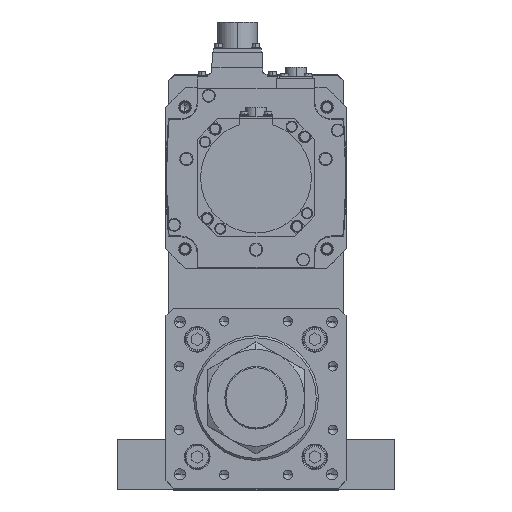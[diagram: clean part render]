
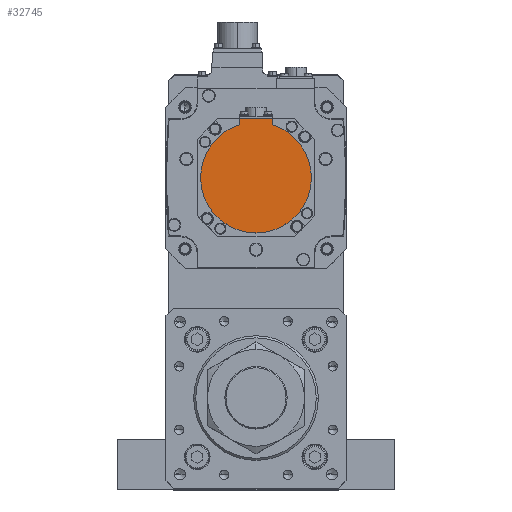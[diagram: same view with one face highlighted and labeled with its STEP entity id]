
A CAD part, top view. The second image highlights one B-rep face of the part: STEP entity #32745.
In plain terms, the highlighted planar face has unit normal (0, 0, 1) as drawn and (0, 0, -1) by its records, which use the part's own axes.
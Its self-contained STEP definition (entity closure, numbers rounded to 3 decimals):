
#138 = CARTESIAN_POINT ( 'NONE',  ( 12., -1.25, -181. ) ) ;
#199 = AXIS2_PLACEMENT_3D ( 'NONE', #30966, #3967, #27939 ) ;
#349 = CARTESIAN_POINT ( 'NONE',  ( -40., 0., -181. ) ) ;
#1576 = DIRECTION ( 'NONE',  ( 0., 0., 1. ) ) ;
#1848 = VERTEX_POINT ( 'NONE', #4935 ) ;
#3188 = VERTEX_POINT ( 'NONE', #25727 ) ;
#3710 = DIRECTION ( 'NONE',  ( 0., 0., 1. ) ) ;
#3967 = DIRECTION ( 'NONE',  ( 0., 0., 1. ) ) ;
#4756 = VERTEX_POINT ( 'NONE', #5146 ) ;
#4935 = CARTESIAN_POINT ( 'NONE',  ( 40., 0., -181. ) ) ;
#5146 = CARTESIAN_POINT ( 'NONE',  ( -12., -42.5, -181. ) ) ;
#6971 = AXIS2_PLACEMENT_3D ( 'NONE', #21814, #3710, #9790 ) ;
#8558 = EDGE_CURVE ( 'NONE', #16078, #29668, #36854, .T. ) ;
#8733 = DIRECTION ( 'NONE',  ( 1., 0., 0. ) ) ;
#9790 = DIRECTION ( 'NONE',  ( 1., 0., 0. ) ) ;
#10099 = VECTOR ( 'NONE', #36756, 1000. ) ;
#11977 = VERTEX_POINT ( 'NONE', #349 ) ;
#13322 = DIRECTION ( 'NONE',  ( 1., 0., 0. ) ) ;
#13489 = ORIENTED_EDGE ( 'NONE', *, *, #24129, .F. ) ;
#13512 = CARTESIAN_POINT ( 'NONE',  ( -12., -40.329, -181. ) ) ;
#13728 = ORIENTED_EDGE ( 'NONE', *, *, #36952, .F. ) ;
#13741 = ORIENTED_EDGE ( 'NONE', *, *, #8558, .F. ) ;
#14926 = CARTESIAN_POINT ( 'NONE',  ( 12., -42.5, -181. ) ) ;
#16078 = VERTEX_POINT ( 'NONE', #14926 ) ;
#16708 = DIRECTION ( 'NONE',  ( 0., 1., 0. ) ) ;
#17198 = LINE ( 'NONE', #24315, #10099 ) ;
#17378 = LINE ( 'NONE', #13512, #21149 ) ;
#17626 = AXIS2_PLACEMENT_3D ( 'NONE', #30047, #17727, #8733 ) ;
#17727 = DIRECTION ( 'NONE',  ( 0., 0., 1. ) ) ;
#21149 = VECTOR ( 'NONE', #16708, 1000. ) ;
#21814 = CARTESIAN_POINT ( 'NONE',  ( 0., 0., -181. ) ) ;
#22331 = EDGE_CURVE ( 'NONE', #1848, #11977, #28743, .T. ) ;
#23542 = EDGE_LOOP ( 'NONE', ( #33401, #13728, #23969, #13489, #13741, #36180 ) ) ;
#23969 = ORIENTED_EDGE ( 'NONE', *, *, #22331, .F. ) ;
#24129 = EDGE_CURVE ( 'NONE', #29668, #1848, #38101, .T. ) ;
#24315 = CARTESIAN_POINT ( 'NONE',  ( 0., -42.5, -181. ) ) ;
#25132 = EDGE_CURVE ( 'NONE', #16078, #4756, #17198, .T. ) ;
#25417 = FACE_OUTER_BOUND ( 'NONE', #23542, .T. ) ;
#25727 = CARTESIAN_POINT ( 'NONE',  ( -12., -38.158, -181. ) ) ;
#27939 = DIRECTION ( 'NONE',  ( 1., 0., 0. ) ) ;
#28743 = CIRCLE ( 'NONE', #17626, 40. ) ;
#28818 = PLANE ( 'NONE',  #29418 ) ;
#29418 = AXIS2_PLACEMENT_3D ( 'NONE', #37782, #1576, #13322 ) ;
#29651 = CARTESIAN_POINT ( 'NONE',  ( 12., -38.158, -181. ) ) ;
#29668 = VERTEX_POINT ( 'NONE', #29651 ) ;
#30047 = CARTESIAN_POINT ( 'NONE',  ( 0., 0., -181. ) ) ;
#30966 = CARTESIAN_POINT ( 'NONE',  ( 0., 0., -181. ) ) ;
#32745 = ADVANCED_FACE ( 'NONE', ( #25417 ), #28818, .F. ) ;
#33401 = ORIENTED_EDGE ( 'NONE', *, *, #36412, .T. ) ;
#33711 = DIRECTION ( 'NONE',  ( 0., 1., 0. ) ) ;
#35327 = CIRCLE ( 'NONE', #6971, 40. ) ;
#36180 = ORIENTED_EDGE ( 'NONE', *, *, #25132, .T. ) ;
#36412 = EDGE_CURVE ( 'NONE', #4756, #3188, #17378, .T. ) ;
#36756 = DIRECTION ( 'NONE',  ( -1., 0., 0. ) ) ;
#36854 = LINE ( 'NONE', #138, #37857 ) ;
#36952 = EDGE_CURVE ( 'NONE', #11977, #3188, #35327, .T. ) ;
#37782 = CARTESIAN_POINT ( 'NONE',  ( 0., -1.25, -181. ) ) ;
#37857 = VECTOR ( 'NONE', #33711, 1000. ) ;
#38101 = CIRCLE ( 'NONE', #199, 40. ) ;
